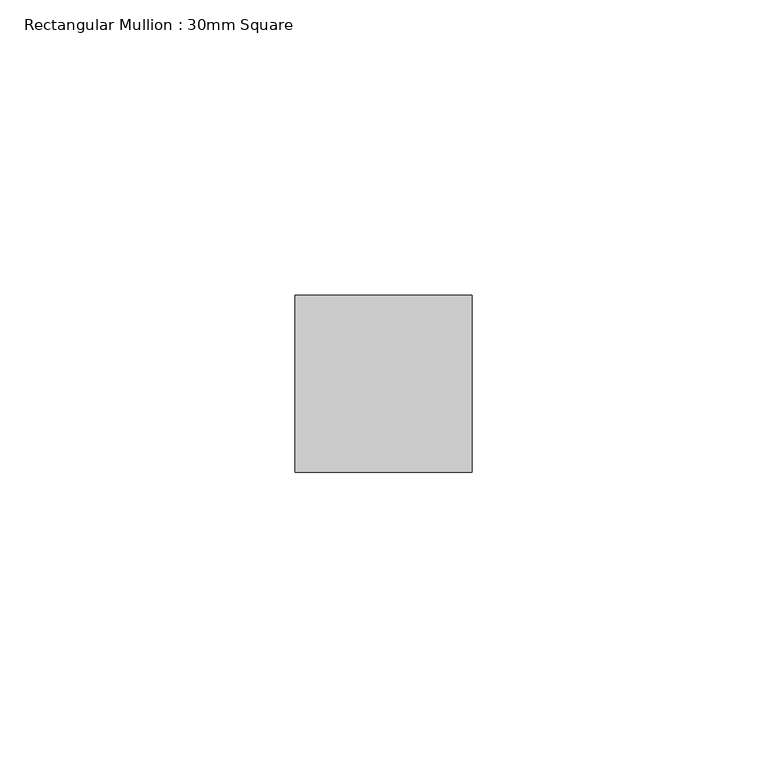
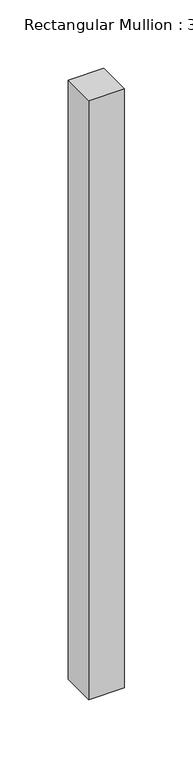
"""IFC4 building model written with IfcOpenShell, lengths in millimetres: member geometry, Rectangular Mullion : 30mm Square."""

from ifc_helpers import new_model, si_unit, frame, origin, place, context, project, spatial, polyline, outline, extrude, source, transform, mapped, element, save


def rectangular_mullion_30mm_square_46fe3aca(model_context):
    return source(origin(), model_context, "Body", "SweptSolid", [
        extrude(outline(polyline([(0.0, 15.0), (0.0, -15.0), (-30.0, -15.0), (-30.0, 15.0), (0.0, 15.0)])), frame((0.0, 0.0, -534.5103514), z_axis=(0.0, 0.0, 1.0), x_axis=(1.0, 0.0, 0.0)), (0.0, 0.0, 1.0), 534.5103514),
    ])


if __name__ == "__main__":
    model = new_model("IFC4")
    model_context = context("Model", 3, world=origin())
    ifc_project = project(units=[si_unit("LENGTHUNIT", "METRE", prefix="MILLI")], contexts=[model_context])
    site = spatial("IfcSite", under=ifc_project)
    building = spatial("IfcBuilding", under=site)
    placement = place(None, origin())
    rectangular_mullion_30mm_square_shape = rectangular_mullion_30mm_square_46fe3aca(model_context)
    element("IfcMember", 1, ObjectType="Rectangular Mullion : 30mm Square", at=placement, inside=building, context=model_context, shape_type="MappedRepresentation", body=[
        mapped(rectangular_mullion_30mm_square_shape, transform((0.0, 0.0, 0.0), x_axis=(1.0, 0.0, 0.0), y_axis=(0.0, 1.0, 0.0), z_axis=(0.0, 0.0, 1.0))),
    ])
    save(model, "model.ifc")
